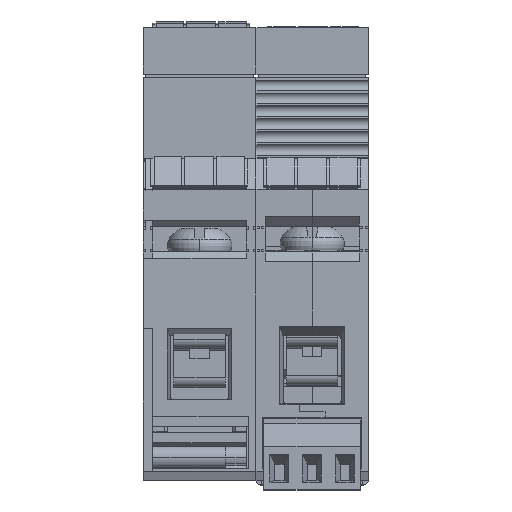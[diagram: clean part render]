
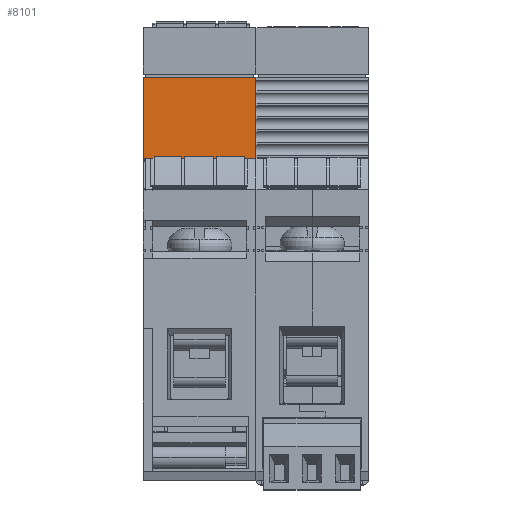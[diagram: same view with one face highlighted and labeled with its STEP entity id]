
A CAD part, top view. The second image highlights one B-rep face of the part: STEP entity #8101.
In plain terms, the highlighted planar face has unit normal (0, 0, 1).
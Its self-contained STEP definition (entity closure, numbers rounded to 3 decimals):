
#160 = EDGE_CURVE ( 'NONE', #35226, #22459, #56237, .T. ) ;
#920 = CARTESIAN_POINT ( 'NONE',  ( 0., 33., 22.5 ) ) ;
#7211 = VECTOR ( 'NONE', #49097, 1000. ) ;
#8025 = CARTESIAN_POINT ( 'NONE',  ( 0., 45.6, 22.5 ) ) ;
#8101 = ADVANCED_FACE ( 'NONE', ( #19250 ), #42470, .T. ) ;
#14125 = LINE ( 'NONE', #76454, #25938 ) ;
#19250 = FACE_OUTER_BOUND ( 'NONE', #34414, .T. ) ;
#19687 = ORIENTED_EDGE ( 'NONE', *, *, #55387, .T. ) ;
#20040 = CARTESIAN_POINT ( 'NONE',  ( -17.5, 33., 22.5 ) ) ;
#20861 = VECTOR ( 'NONE', #67918, 1000. ) ;
#22279 = VERTEX_POINT ( 'NONE', #43427 ) ;
#22459 = VERTEX_POINT ( 'NONE', #920 ) ;
#23801 = CARTESIAN_POINT ( 'NONE',  ( -17.5, 33., 22.5 ) ) ;
#25458 = CARTESIAN_POINT ( 'NONE',  ( 0., 33., 22.5 ) ) ;
#25938 = VECTOR ( 'NONE', #44414, 1000. ) ;
#30116 = CARTESIAN_POINT ( 'NONE',  ( -17.5, 33., 22.5 ) ) ;
#34414 = EDGE_LOOP ( 'NONE', ( #67167, #19687, #72208, #63573 ) ) ;
#35226 = VERTEX_POINT ( 'NONE', #20040 ) ;
#40803 = VERTEX_POINT ( 'NONE', #8025 ) ;
#42470 = PLANE ( 'NONE',  #51790 ) ;
#42638 = LINE ( 'NONE', #25458, #74969 ) ;
#43427 = CARTESIAN_POINT ( 'NONE',  ( -17.5, 45.6, 22.5 ) ) ;
#44414 = DIRECTION ( 'NONE',  ( 1., 0., 0. ) ) ;
#45515 = DIRECTION ( 'NONE',  ( 0., -1., 0. ) ) ;
#49097 = DIRECTION ( 'NONE',  ( 0., -1., 0. ) ) ;
#51790 = AXIS2_PLACEMENT_3D ( 'NONE', #23801, #55164, #55700 ) ;
#52158 = EDGE_CURVE ( 'NONE', #40803, #22459, #42638, .T. ) ;
#52221 = EDGE_CURVE ( 'NONE', #22279, #40803, #14125, .T. ) ;
#55164 = DIRECTION ( 'NONE',  ( 0., 0., 1. ) ) ;
#55387 = EDGE_CURVE ( 'NONE', #22279, #35226, #79793, .T. ) ;
#55700 = DIRECTION ( 'NONE',  ( 1., 0., 0. ) ) ;
#56237 = LINE ( 'NONE', #68192, #20861 ) ;
#63573 = ORIENTED_EDGE ( 'NONE', *, *, #52158, .F. ) ;
#67167 = ORIENTED_EDGE ( 'NONE', *, *, #52221, .F. ) ;
#67918 = DIRECTION ( 'NONE',  ( 1., 0., 0. ) ) ;
#68192 = CARTESIAN_POINT ( 'NONE',  ( -17.5, 33., 22.5 ) ) ;
#72208 = ORIENTED_EDGE ( 'NONE', *, *, #160, .T. ) ;
#74969 = VECTOR ( 'NONE', #45515, 1000. ) ;
#76454 = CARTESIAN_POINT ( 'NONE',  ( -17.5, 45.6, 22.5 ) ) ;
#79793 = LINE ( 'NONE', #30116, #7211 ) ;
